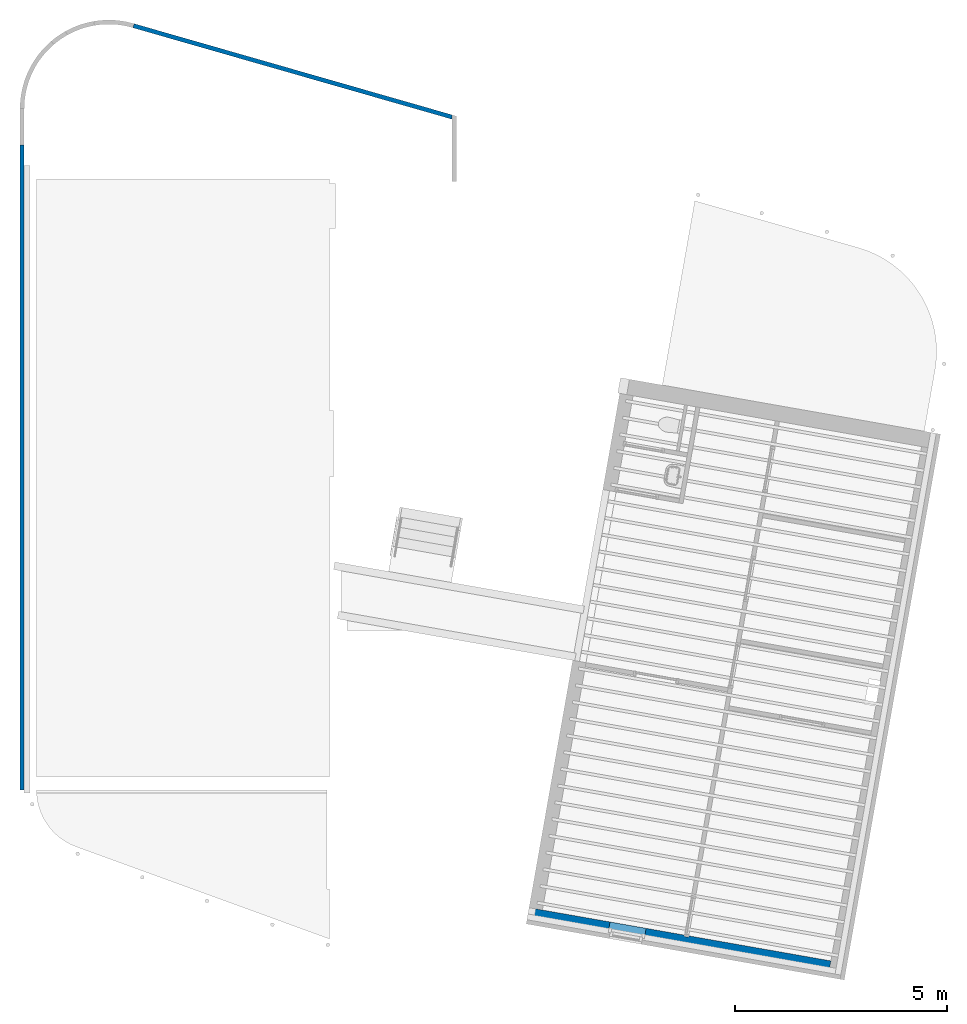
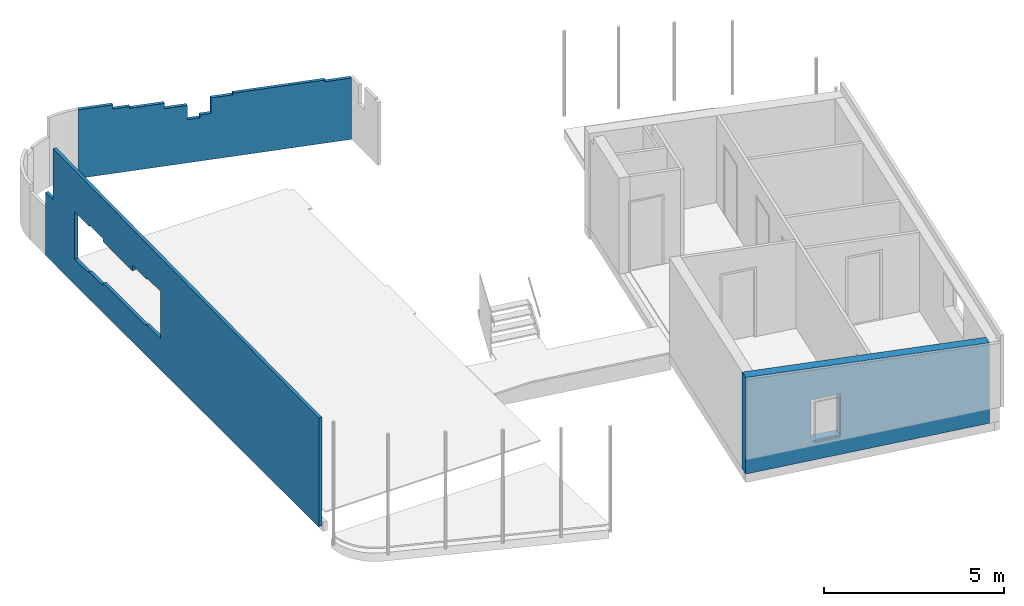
# One storey, part 5 of 7: 3 walls.
"""IFC2X3 building model written with IfcOpenShell, lengths in millimetres."""

from ifc_helpers import new_model, entity, si_unit, converted_unit, derived_unit, direction, frame, origin, place, context, subcontext, project, spatial, faceted_brep, material, layer, layer_set, type_object, element, save


model = new_model("IFC2X3")

# Units and contexts
model_context = context("Model", 3, precision=0.01, world=origin(), true_north=direction((6.12303176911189e-17, 1.0)))
body_context = subcontext(model_context, "Body", "Model", "MODEL_VIEW")
ifc_project = project(units=[si_unit("LENGTHUNIT", "METRE", prefix="MILLI"), si_unit("AREAUNIT", "SQUARE_METRE"), si_unit("VOLUMEUNIT", "CUBIC_METRE"), converted_unit("PLANEANGLEUNIT", "DEGREE", entity("IfcRatioMeasure", 0.0174532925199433), si_unit("PLANEANGLEUNIT", "RADIAN"), dimensions=[0, 0, 0, 0, 0, 0, 0]), si_unit("MASSUNIT", "GRAM", prefix="KILO"), derived_unit("MASSDENSITYUNIT", [(si_unit("MASSUNIT", "GRAM", prefix="KILO"), 1), (si_unit("LENGTHUNIT", "METRE"), -3)]), si_unit("TIMEUNIT", "SECOND"), si_unit("FREQUENCYUNIT", "HERTZ"), si_unit("THERMODYNAMICTEMPERATUREUNIT", "DEGREE_CELSIUS"), derived_unit("THERMALTRANSMITTANCEUNIT", [(si_unit("MASSUNIT", "GRAM", prefix="KILO"), 1), (si_unit("THERMODYNAMICTEMPERATUREUNIT", "KELVIN"), -1), (si_unit("TIMEUNIT", "SECOND"), -3)]), derived_unit("VOLUMETRICFLOWRATEUNIT", [(si_unit("LENGTHUNIT", "METRE"), 3), (si_unit("TIMEUNIT", "SECOND"), -1)]), si_unit("ELECTRICCURRENTUNIT", "AMPERE"), si_unit("ELECTRICVOLTAGEUNIT", "VOLT"), si_unit("POWERUNIT", "WATT"), si_unit("FORCEUNIT", "NEWTON", prefix="KILO"), si_unit("ILLUMINANCEUNIT", "LUX"), si_unit("LUMINOUSFLUXUNIT", "LUMEN"), si_unit("LUMINOUSINTENSITYUNIT", "CANDELA"), derived_unit("USERDEFINED", [(si_unit("MASSUNIT", "GRAM", prefix="KILO"), -1), (si_unit("LENGTHUNIT", "METRE"), -2), (si_unit("TIMEUNIT", "SECOND"), 3), (si_unit("LUMINOUSFLUXUNIT", "LUMEN"), 1)]), derived_unit("LINEARVELOCITYUNIT", [(si_unit("LENGTHUNIT", "METRE"), 1), (si_unit("TIMEUNIT", "SECOND"), -1)]), si_unit("PRESSUREUNIT", "PASCAL"), derived_unit("USERDEFINED", [(si_unit("LENGTHUNIT", "METRE"), -2), (si_unit("MASSUNIT", "GRAM", prefix="KILO"), 1), (si_unit("TIMEUNIT", "SECOND"), -2)])], contexts=[model_context])

# Site, building, storey
site_placement = place(None, origin())
site = spatial("IfcSite", under=ifc_project, at=site_placement, Name="<Kadaster Gemeente>;<Kadaster nummer>;<Kadaster sectie>", CompositionType="ELEMENT")
building_placement = place(site_placement, origin())
building = spatial("IfcBuilding", under=site, at=building_placement, Name="JRCZ Middelburg", CompositionType="ELEMENT")
storey_placement = place(building_placement, frame((0.0, 0.0, 3000.0)))
storey = spatial("IfcBuildingStorey", under=building, at=storey_placement, Name="01 eerste verdieping", CompositionType="ELEMENT", Elevation=3000.0)

# Walls
ifc_material_1 = material(Name="isolatie_steenwol_hsb_270")
ifc_layer_1 = layer(ifc_material_1, 270.0)
ifc_material_2 = material(Name="RBM_i4_multiplex_beplating")
ifc_layer_2 = layer(ifc_material_2, 18.0)
ifc_layer_set_1 = layer_set([ifc_layer_1, ifc_layer_2], Name="Basic Wall:RBM_21_WA_hsb_288mm")
wall_type_1 = type_object("IfcWallType", Name="Basic Wall:RBM_21_WA_hsb_288mm", PredefinedType="STANDARD", material=ifc_layer_set_1)
wall_1_placement = place(storey_placement, frame((28835.3721181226, 5681.97235464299, -45.0), z_axis=(0.0, 0.0, 1.0), x_axis=(-0.984807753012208, 0.173648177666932, 0.0)))
element("IfcWall", 1, at=wall_1_placement, inside=storey, type_object=wall_type_1, Name="Basic Wall:RBM_21_WA_hsb_288mm", ObjectType="Basic Wall:RBM_21_WA_hsb_288mm", context=body_context, shape_type="Brep", body=[
    faceted_brep([(0.0, -144.0, 0.0), (6900.0, -144.0, 0.0), (7218.50000000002, -144.0, 0.0), (7218.50000000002, -144.0, 3276.82166736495), (6900.00622555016, -144.0, 3252.7688269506), (0.0, -144.0, 2731.67622824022), (3400.0, -144.0, 45.0), (3400.0, -144.0, 2422.0), (3500.0, -144.0, 2422.0), (3500.0, -144.0, 45.0), (4418.49999999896, -144.0, 645.0), (4418.49999999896, -144.0, 2045.0), (4462.49999999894, -144.0, 2045.0), (5237.49999999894, -144.0, 2045.0), (5281.49999999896, -144.0, 2045.0), (5281.49999999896, -144.0, 645.0), (5237.49999999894, -144.0, 645.0), (4462.49999999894, -144.0, 645.0), (7218.50000000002, 144.0, 0.0), (0.0, 144.0, 0.0), (0.0, 144.0, 2731.67622824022), (7218.50000000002, 144.0, 3276.82166736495), (4418.49999999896, 144.0, 2045.0), (4418.49999999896, 144.0, 645.0), (4462.49999999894, 144.0, 645.0), (5237.49999999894, 144.0, 645.0), (5281.49999999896, 144.0, 645.0), (5281.49999999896, 144.0, 2045.0), (5237.49999999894, 144.0, 2045.0), (4462.49999999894, 144.0, 2045.0), (3400.0, -110.0, 45.0), (3400.0, -110.0, 2422.0), (3500.0, -110.0, 2422.0), (3500.0, -110.0, 45.0)], [[[0, 1, 2, 3, 4, 5], [6, 7, 8, 9], [10, 11, 12, 13, 14, 15, 16, 17]], [[18, 19, 20, 21], [22, 23, 24, 25, 26, 27, 28, 29]], [[0, 5, 20, 19]], [[30, 31, 7, 6]], [[32, 33, 9, 8]], [[31, 32, 8, 7]], [[31, 30, 33, 32]], [[33, 30, 6, 9]], [[10, 23, 22, 11]], [[11, 22, 29, 28, 27, 14, 13, 12]], [[14, 27, 26, 15]], [[23, 10, 17, 16, 15, 26, 25, 24]], [[2, 1, 0, 19, 18]], [[5, 4, 3, 21, 20]], [[3, 2, 18, 21]]]),
])
ifc_material_3 = material(Name="hout_accoya_schubben")
ifc_layer_3 = layer(ifc_material_3, 30.0)
ifc_material_4 = material(Name="hout_vuren_regel")
ifc_layer_4 = layer(ifc_material_4, 35.0)
ifc_layer_5 = layer(ifc_material_4, 35.0)
ifc_layer_set_2 = layer_set([ifc_layer_3, ifc_layer_4, ifc_layer_5], Name="Basic Wall:RBM_21_WA_gevelbekleding op regelwerk_100mm")
wall_type_2 = type_object("IfcWallType", Name="Basic Wall:RBM_21_WA_gevelbekleding op regelwerk_100mm", PredefinedType="STANDARD", material=ifc_layer_set_2)
wall_2_placement = place(storey_placement, frame((9812.0, 9843.49740647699, 500.0), z_axis=(0.0, 0.0, 1.0), x_axis=(0.0, 1.0, 0.0)))
element("IfcWall", 2, at=wall_2_placement, inside=storey, type_object=wall_type_2, Name="Basic Wall:RBM_21_WA_gevelbekleding op regelwerk_100mm", ObjectType="Basic Wall:RBM_21_WA_gevelbekleding op regelwerk_100mm", context=body_context, shape_type="Brep", body=[
    faceted_brep([(8791.86654242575, -50.0, 1050.0), (8791.86654242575, -50.0, 2650.0), (9566.86654242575, -50.0, 2650.0), (9566.86654242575, -50.0, 2600.0), (10366.8665424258, -50.0, 2600.0), (10366.8665424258, -50.0, 2400.0), (11991.8665424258, -50.0, 2400.0), (11991.8665424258, -50.0, 2500.0), (12766.8665424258, -50.0, 2500.0), (12766.8665424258, -50.0, 2450.0), (13566.8665424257, -50.0, 2450.0), (13566.8665424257, -50.0, 850.0), (12791.8665424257, -50.0, 850.0), (12791.8665424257, -50.0, 900.0), (11991.8665424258, -50.0, 900.0), (11991.8665424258, -50.0, 1000.0), (9591.86654242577, -50.0, 1000.0), (9591.86654242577, -50.0, 1050.0), (0.115885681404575, -50.0, 0.0), (15193.990589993, -50.0, 0.0), (15193.990589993, -50.0, 1630.0), (15193.990589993, -50.0, 2140.0), (14772.502593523, -50.0, 2140.0), (14772.502593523, -50.0, 3877.60020337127), (0.115885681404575, -50.0, 3682.53585203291), (8791.86654242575, 50.0, 1050.0), (9591.86654242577, 50.0, 1050.0), (9591.86654242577, 50.0, 1000.0), (11991.8665424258, 50.0, 1000.0), (11991.8665424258, 50.0, 900.0), (12791.8665424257, 50.0, 900.0), (12791.8665424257, 50.0, 850.0), (13566.8665424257, 50.0, 850.0), (13566.8665424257, 50.0, 2450.0), (12766.8665424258, 50.0, 2450.0), (12766.8665424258, 50.0, 2500.0), (11991.8665424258, 50.0, 2500.0), (11991.8665424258, 50.0, 2400.0), (10366.8665424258, 50.0, 2400.0), (10366.8665424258, 50.0, 2600.0), (9566.86654242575, 50.0, 2600.0), (9566.86654242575, 50.0, 2650.0), (8791.86654242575, 50.0, 2650.0), (0.0, 50.0, 0.0), (0.0, 50.0, 3682.53432180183), (14772.502593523, 50.0, 3877.60020337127), (14772.502593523, 50.0, 2140.0), (15193.990589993, 50.0, 2140.0), (15193.990589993, 50.0, 1630.0), (15193.990589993, 50.0, 0.0)], [[[0, 1, 2, 3, 4, 5, 6, 7, 8, 9, 10, 11, 12, 13, 14, 15, 16, 17], [18, 19, 20, 21, 22, 23, 24]], [[25, 26, 27, 28, 29, 30, 31, 32, 33, 34, 35, 36, 37, 38, 39, 40, 41, 42], [43, 44, 45, 46, 47, 48, 49]], [[19, 18, 43, 49]], [[21, 20, 19, 49, 48, 47]], [[22, 21, 47, 46]], [[24, 23, 45, 44]], [[1, 0, 25, 42]], [[2, 1, 42, 41]], [[3, 2, 41, 40]], [[4, 3, 40, 39]], [[5, 4, 39, 38]], [[6, 5, 38, 37]], [[7, 6, 37, 36]], [[8, 7, 36, 35]], [[9, 8, 35, 34]], [[10, 9, 34, 33]], [[11, 10, 33, 32]], [[12, 11, 32, 31]], [[13, 12, 31, 30]], [[14, 13, 30, 29]], [[15, 14, 29, 28]], [[16, 15, 28, 27]], [[17, 16, 27, 26]], [[0, 17, 26, 25]], [[18, 24, 44, 43]], [[23, 22, 46, 45]]], outer=[[False, True], [False, True], [True], [True], [True], [True], [True], [True], [True], [True], [True], [True], [True], [True], [True], [True], [True], [True], [True], [True], [True], [True], [True], [True], [True], [True]]),
])
wall_3_placement = place(storey_placement, frame((12435.8381488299, 27849.2685109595, 500.0), z_axis=(0.0, 0.0, 1.0), x_axis=(0.961261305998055, -0.275638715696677, 0.0)))
element("IfcWall", 3, at=wall_3_placement, inside=storey, type_object=wall_type_2, Name="Basic Wall:RBM_21_WA_gevelbekleding op regelwerk_100mm", ObjectType="Basic Wall:RBM_21_WA_gevelbekleding op regelwerk_100mm", context=body_context, shape_type="Brep", body=[
    faceted_brep([(0.0, -50.0, 0.0), (7818.45331846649, -50.0, 0.0), (7818.45331846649, -50.0, 2082.98183221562), (7061.81006570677, -50.0, 2082.98183221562), (7061.81006570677, -50.0, 2142.98183221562), (4421.8100657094, -50.0, 2142.98183221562), (4421.8100657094, -50.0, 2087.98183221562), (3793.32573586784, -50.0, 2087.98183221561), (3793.32573586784, -50.0, 1567.98183221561), (3473.32573586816, -50.0, 1567.98183221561), (3473.32573586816, -50.0, 1470.0), (3113.32573586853, -50.0, 1470.0), (3113.32573586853, -50.0, 1950.0), (2462.56883687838, -50.0, 1950.0), (2462.56883687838, -50.0, 2130.0), (1462.56883687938, -50.0, 2130.0), (1462.56883687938, -50.0, 2190.0), (982.568836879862, -50.0, 2190.0), (982.568836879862, -50.0, 2330.0), (0.0, -50.0, 2330.0), (0.0, -50.0, 1630.0), (0.520973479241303, 50.0, 0.0), (0.520973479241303, 50.0, 1630.0), (0.520973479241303, 50.0, 2330.0), (982.568836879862, 50.0, 2330.0), (982.568836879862, 50.0, 2190.0), (1462.56883687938, 50.0, 2190.0), (1462.56883687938, 50.0, 2130.0), (2462.56883687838, 50.0, 2130.0), (2462.56883687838, 50.0, 1950.0), (3113.32573586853, 50.0, 1950.0), (3113.32573586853, 50.0, 1470.0), (3473.32573586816, 50.0, 1470.0), (3473.32573586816, 50.0, 1567.98183221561), (3793.32573586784, 50.0, 1567.98183221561), (3793.32573586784, 50.0, 2087.98183221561), (4421.8100657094, 50.0, 2087.98183221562), (4421.8100657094, 50.0, 2142.98183221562), (7061.81006570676, 50.0, 2142.98183221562), (7061.81006570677, 50.0, 2082.98183221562), (7789.77862679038, 50.0, 2082.98183221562), (7789.77862679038, 50.0, 0.0)], [[[0, 1, 2, 3, 4, 5, 6, 7, 8, 9, 10, 11, 12, 13, 14, 15, 16, 17, 18, 19, 20]], [[21, 22, 23, 24, 25, 26, 27, 28, 29, 30, 31, 32, 33, 34, 35, 36, 37, 38, 39, 40, 41]], [[2, 1, 41, 40]], [[1, 0, 21, 41]], [[3, 2, 40, 39]], [[4, 3, 39, 38]], [[5, 4, 38, 37]], [[6, 5, 37, 36]], [[7, 6, 36, 35]], [[8, 7, 35, 34]], [[9, 8, 34, 33]], [[10, 9, 33, 32]], [[11, 10, 32, 31]], [[12, 11, 31, 30]], [[13, 12, 30, 29]], [[14, 13, 29, 28]], [[15, 14, 28, 27]], [[16, 15, 27, 26]], [[17, 16, 26, 25]], [[18, 17, 25, 24]], [[19, 18, 24, 23]], [[20, 19, 23, 22, 21, 0]]]),
])

save(model, "model.ifc")
